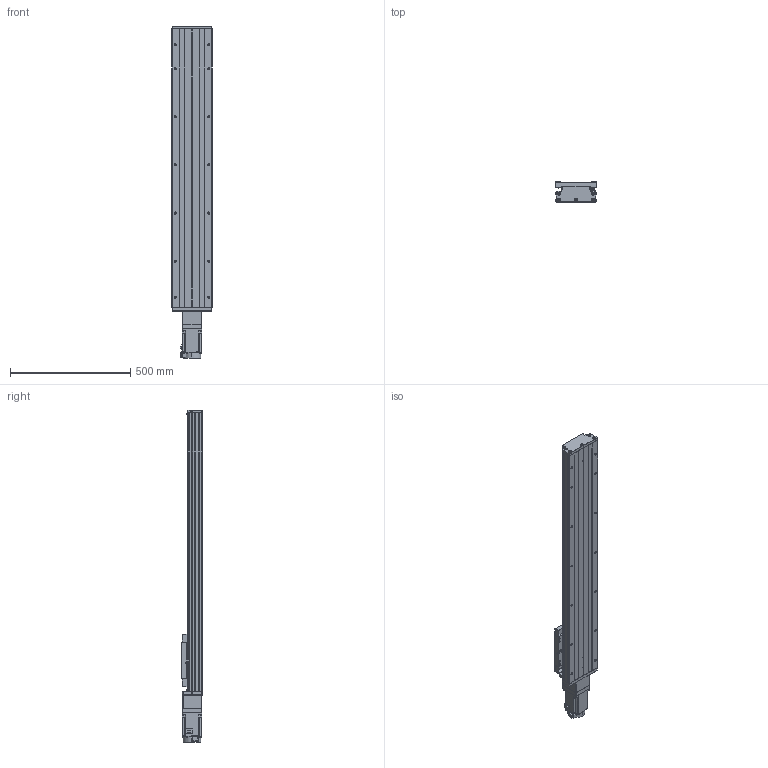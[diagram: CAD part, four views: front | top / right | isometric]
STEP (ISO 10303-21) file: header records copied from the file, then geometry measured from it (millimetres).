
FILE_DESCRIPTION (( 'STEP AP203' ), '1' );
FILE_NAME ('GTH17-900-BC-M75-C4.step', '2023-06-30T11:23:24', ( '微软用户' ), ( '微软中国' ), 'SwSTEP 2.0', 'SolidWorks 2020', '' );
FILE_SCHEMA (( 'CONFIG_CONTROL_DESIGN' ));
Length unit declared in the file: millimetre
Products named in the file (20): EE_SX911P_R; す晦芛蹟隊 M3℅5; GTH17-001_900; CTHA60-016; GBT 70.3-M3℅8; GTH17-002_GTH17-002; GBT 70.1-M3℅5; GTH17-006-2_M75; GTH17-004; GBT77-2000 M3×3; GTH17-013; GTH17-005; GBT 70.1-M6¡Á20_M6¡Á20; GTH17-027-1; GB1155-6X6; GTH17-031; HG-KN73J-S100; CTHA60-017; GBT 70.2-M3¡Á5_M3¡Á6; GTH17-900-BC-M75-C4
Assembly tree (57 placements, depth 2):
  GTH17-900-BC-M75-C4
    GTH17-001_900
    GTH17-002_GTH17-002
    GTH17-004
    GTH17-005
    GB1155-6X6  x2
    CTHA60-017  x3
    EE_SX911P_R  x3
    CTHA60-016  x2
    GBT 70.1-M3℅5  x6
    GBT77-2000 M3×3  x6
    GBT 70.1-M6¡Á20_M6¡Á20  x10
    GTH17-031
    GBT 70.2-M3¡Á5_M3¡Á6  x8
    す晦芛蹟隊 M3℅5  x6
    GBT 70.3-M3℅8  x2
    GTH17-006-2_M75
    GTH17-013
    GTH17-027-1
    HG-KN73J-S100
Bounding box: 171 x 87 x 1381.2 mm (x, y, z)
Volume: 10391288.8 mm3; surface area: 1322846.1 mm2
Topology: 60 solids, 60 shells, 2424 faces, 5797 edges, 3595 vertices
Faces by surface type: plane 1307, cylinder 670, cone 287, torus 120, sphere 20, bspline 20
Entity records: 45453 total; most frequent: CARTESIAN_POINT 10477, DIRECTION 6597, ORIENTED_EDGE 6510, EDGE_CURVE 3255, AXIS2_PLACEMENT_3D 2249, LINE 2099, VECTOR 2099, VERTEX_POINT 2063
